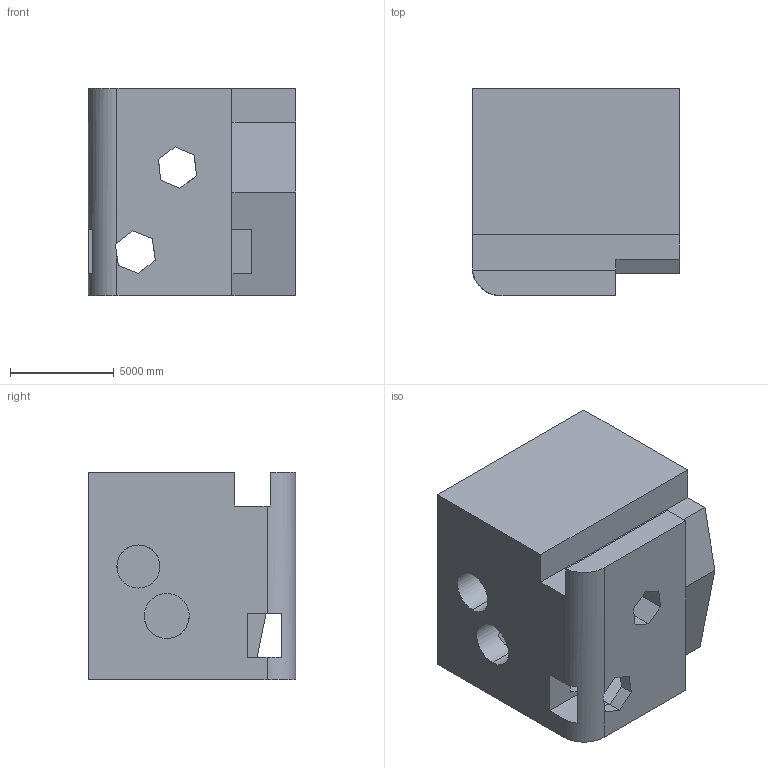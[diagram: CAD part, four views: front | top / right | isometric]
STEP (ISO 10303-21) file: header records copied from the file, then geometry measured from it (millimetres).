
FILE_DESCRIPTION (( 'STEP AP203' ), '1' );
FILE_NAME ('1783.STEP', '2022-08-19T12:50:54', ( 'user' ), ( '' ), 'SwSTEP 2.0', 'SolidWorks 2021', '' );
FILE_SCHEMA (( 'CONFIG_CONTROL_DESIGN' ));
Length unit declared in the file: centimetre
Products named in the file (1): 1783
Bounding box: 10000 x 10000 x 10000 mm (x, y, z)
Volume: 816978612305.9 mm3; surface area: 788257619.1 mm2
Topology: 1 solids, 1 shells, 46 faces, 153 edges, 102 vertices
Faces by surface type: plane 41, cylinder 5
Entity records: 1751 total; most frequent: CARTESIAN_POINT 356, ORIENTED_EDGE 306, DIRECTION 242, EDGE_CURVE 153, LINE 122, VECTOR 122, VERTEX_POINT 102, AXIS2_PLACEMENT_3D 60
